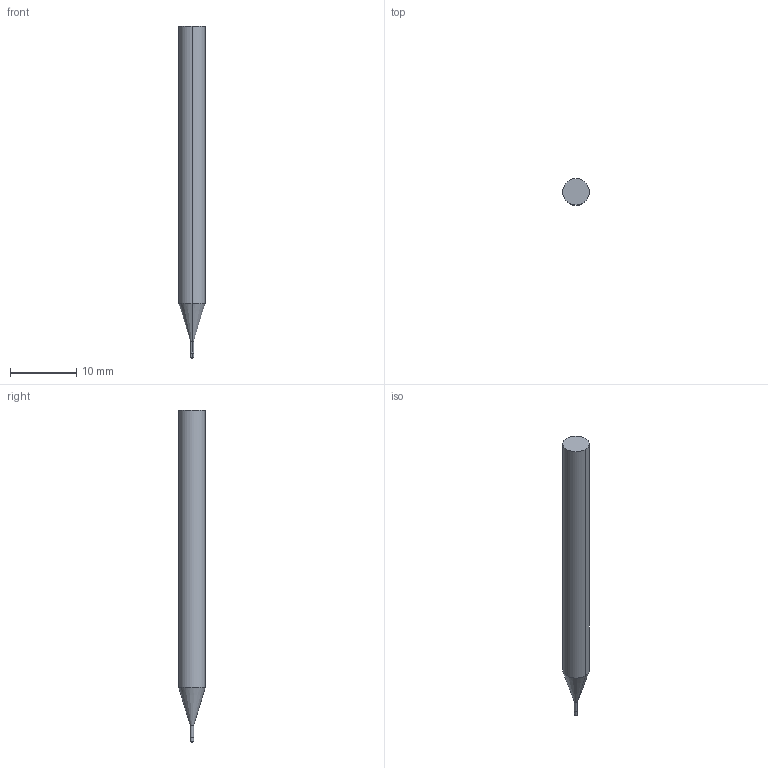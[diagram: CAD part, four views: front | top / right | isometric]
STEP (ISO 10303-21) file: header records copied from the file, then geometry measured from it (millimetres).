
FILE_DESCRIPTION((' '),'2;1');
FILE_NAME( '3MVSM0050R.10N5AH.stp', '2026-01-21T19:26:59', (' '), ('--- Datakit www.datakit.com---'), ' Datakit CrossCadWare V2025.4 Sep 19 2025', 'Mastercam 2027', ' ');
FILE_SCHEMA(('AUTOMOTIVE_DESIGN { 1 0 10303 214 1 1 1 1 }'));
Length unit declared in the file: inch
Products named in the file (1): 3MVSM0050R
Bounding box: 4 x 4 x 50 mm (x, y, z)
Volume: 553 mm3; surface area: 584 mm2
Topology: 1 solids, 1 shells, 12 faces, 22 edges, 12 vertices
Faces by surface type: cylinder 6, plane 2, torus 2, cone 2
Entity records: 377 total; most frequent: DIRECTION 70, CARTESIAN_POINT 51, ORIENTED_EDGE 44, AXIS2_PLACEMENT_3D 31, EDGE_CURVE 22, CIRCLE 14, VERTEX_POINT 12, EDGE_LOOP 12
